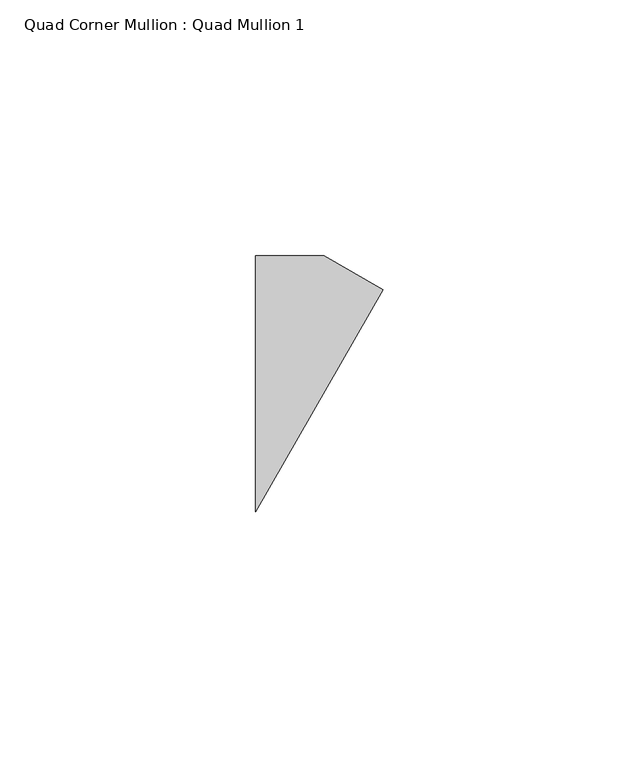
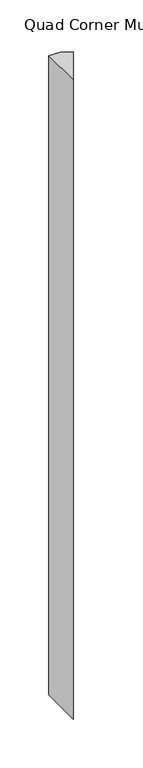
"""IFC4 building model written with IfcOpenShell, lengths in millimetres: member geometry, Quad Corner Mullion : Quad Mullion 1."""

from ifc_helpers import new_model, si_unit, frame, origin, place, context, project, spatial, polyline, outline, extrude, source, transform, mapped, element, save


def quad_corner_mullion_quad_mullion_1_2eafacda(model_context):
    return source(origin(), model_context, "Body", "SweptSolid", [
        extrude(outline(polyline([(18.2517715, 18.3425598), (-6.6765759, -25.0), (-6.6765759, 25.0), (6.6765759, 25.0), (18.2517715, 18.3425598)])), frame((0.0, 0.0, -800.0), z_axis=(0.0, 0.0, 1.0), x_axis=(1.0, 0.0, 0.0)), (0.0, 0.0, 1.0), 800.0),
    ])


if __name__ == "__main__":
    model = new_model("IFC4")
    model_context = context("Model", 3, world=origin())
    ifc_project = project(units=[si_unit("LENGTHUNIT", "METRE", prefix="MILLI")], contexts=[model_context])
    site = spatial("IfcSite", under=ifc_project)
    building = spatial("IfcBuilding", under=site)
    placement = place(None, origin())
    quad_corner_mullion_quad_mullion_1_shape = quad_corner_mullion_quad_mullion_1_2eafacda(model_context)
    element("IfcMember", 1, ObjectType="Quad Corner Mullion : Quad Mullion 1", at=placement, inside=building, context=model_context, shape_type="MappedRepresentation", body=[
        mapped(quad_corner_mullion_quad_mullion_1_shape, transform((0.0, 0.0, 0.0), x_axis=(1.0, 0.0, 0.0), y_axis=(0.0, 1.0, 0.0), z_axis=(0.0, 0.0, 1.0))),
    ])
    save(model, "model.ifc")
